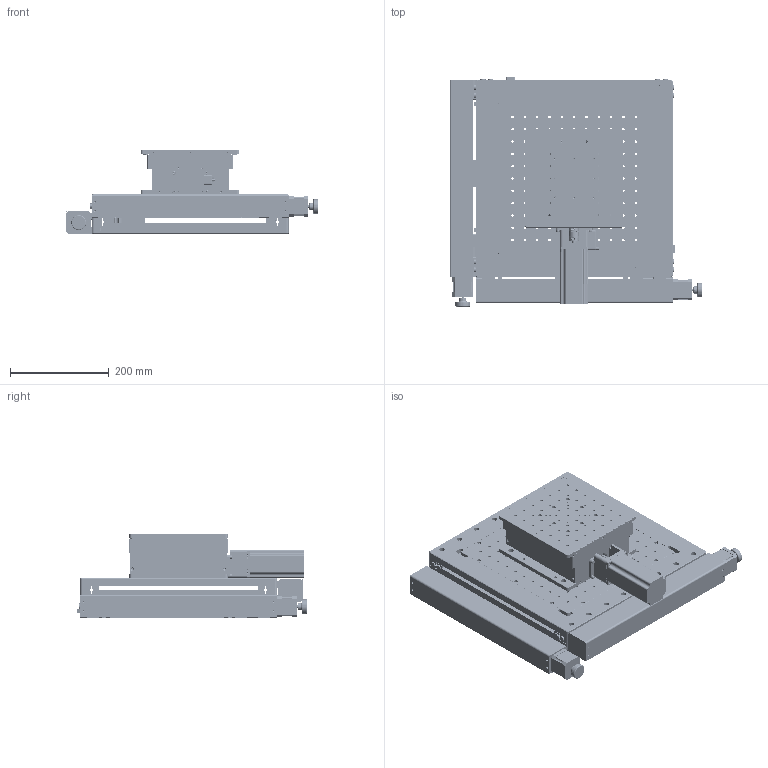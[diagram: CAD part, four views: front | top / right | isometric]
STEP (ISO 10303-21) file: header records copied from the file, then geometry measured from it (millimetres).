
FILE_DESCRIPTION (( 'STEP AP203' ), '1' );
FILE_NAME ('电动三轴调节台.STEP', '2025-06-11T07:55:53', ( '' ), ( '' ), 'SwSTEP 2.0', 'SolidWorks 2016', '' );
FILE_SCHEMA (( 'CONFIG_CONTROL_DESIGN' ));
Length unit declared in the file: millimetre
Products named in the file (1): 电动三轴调节台
Bounding box: 512.5 x 465.5 x 170 mm (x, y, z)
Volume: 8228885.7 mm3; surface area: 2082768.1 mm2
Topology: 84 solids, 84 shells, 6077 faces, 16635 edges, 10675 vertices
Faces by surface type: cylinder 2789, plane 2073, cone 551, bspline 336, torus 232, sphere 96
Entity records: 235091 total; most frequent: CARTESIAN_POINT 82232, ORIENTED_EDGE 32062, DIRECTION 31095, EDGE_CURVE 16031, AXIS2_PLACEMENT_3D 11893, VERTEX_POINT 10473, EDGE_LOOP 7830, LINE 7309
